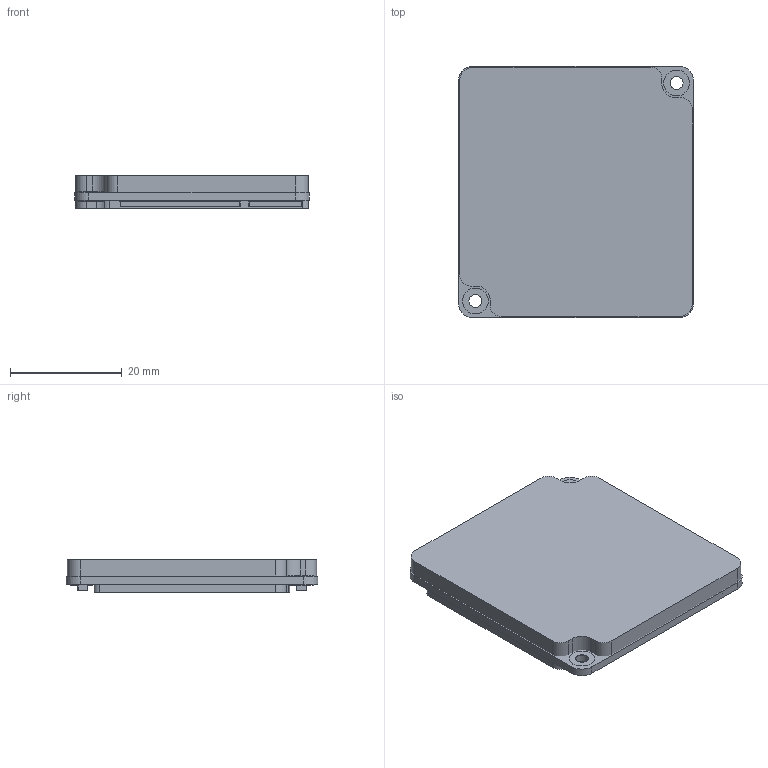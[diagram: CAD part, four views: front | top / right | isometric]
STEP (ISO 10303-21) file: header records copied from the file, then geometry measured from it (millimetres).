
FILE_DESCRIPTION(('CATIA V5 STEP Exchange'),'2;1');
FILE_NAME('\\server-nufotec\Projekt-Kunder\Embedded-Artists\Temp\2019-10-16\106792X-IMXXX-UCOM-BOARD-GENERAL-REV-A-ASSY-2019-10-16.stp','2019-10-16T09:16:01+00:00',('none'),('none'),'CATIA Version 5 Release 19 GA (IN-10)','CATIA V5 STEP AP214','none');
FILE_SCHEMA(('AUTOMOTIVE_DESIGN { 1 0 10303 214 1 1 1 1 }'));
Products named in the file (1): 106792X-IMXXX-UCOM-BOARD-GENERAL-REV-A-ASSY-2019-10-16
Bounding box: 42 x 45 x 5.83 mm (x, y, z)
Surface area: 9224.6 mm2
Topology: 12 solids, 12 shells, 4399 faces, 12949 edges, 8614 vertices
Faces by surface type: plane 3049, cylinder 1302, cone 24, torus 24
Entity records: 171897 total; most frequent: CARTESIAN_POINT 28235, ORIENTED_EDGE 25898, DIRECTION 21295, EDGE_CURVE 12949, VECTOR 10215, LINE 10215, VERTEX_POINT 8614, AXIS2_PLACEMENT_3D 6728
